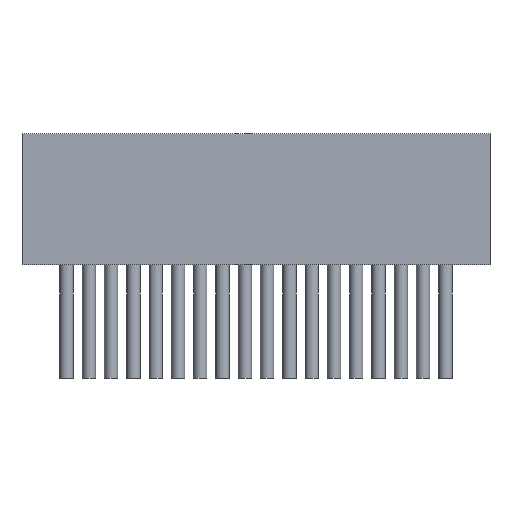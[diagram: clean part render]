
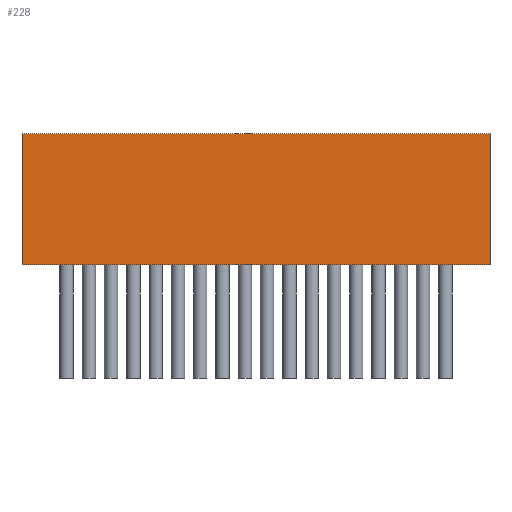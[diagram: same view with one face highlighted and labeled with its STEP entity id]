
A CAD part, front view. The second image highlights one B-rep face of the part: STEP entity #228.
In plain terms, the highlighted planar face has unit normal (0, -1, 0).
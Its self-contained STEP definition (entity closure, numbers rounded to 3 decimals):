
#59 = PLANE('',#60);
#60 = AXIS2_PLACEMENT_3D('',#61,#62,#63);
#61 = CARTESIAN_POINT('',(-2.,-0.4,0.));
#62 = DIRECTION('',(-1.,0.,0.));
#63 = DIRECTION('',(0.,1.,0.));
#87 = PLANE('',#88);
#88 = AXIS2_PLACEMENT_3D('',#89,#90,#91);
#89 = CARTESIAN_POINT('',(8.5,1.,5.893));
#90 = DIRECTION('',(-0.,-0.,-1.));
#91 = DIRECTION('',(-1.,0.,0.));
#115 = PLANE('',#116);
#116 = AXIS2_PLACEMENT_3D('',#117,#118,#119);
#117 = CARTESIAN_POINT('',(19.,2.4,0.));
#118 = DIRECTION('',(1.,0.,-0.));
#119 = DIRECTION('',(0.,-1.,0.));
#141 = PLANE('',#142);
#142 = AXIS2_PLACEMENT_3D('',#143,#144,#145);
#143 = CARTESIAN_POINT('',(8.5,1.,0.));
#144 = DIRECTION('',(-0.,-0.,-1.));
#145 = DIRECTION('',(-1.,0.,0.));
#158 = VERTEX_POINT('',#159);
#159 = CARTESIAN_POINT('',(19.,-0.4,5.893));
#180 = EDGE_CURVE('',#181,#158,#183,.T.);
#181 = VERTEX_POINT('',#182);
#182 = CARTESIAN_POINT('',(19.,-0.4,0.));
#183 = SURFACE_CURVE('',#184,(#188,#195),.PCURVE_S1.);
#184 = LINE('',#185,#186);
#185 = CARTESIAN_POINT('',(19.,-0.4,0.));
#186 = VECTOR('',#187,1.);
#187 = DIRECTION('',(0.,0.,1.));
#188 = PCURVE('',#115,#189);
#189 = DEFINITIONAL_REPRESENTATION('',(#190),#194);
#190 = LINE('',#191,#192);
#191 = CARTESIAN_POINT('',(2.8,0.));
#192 = VECTOR('',#193,1.);
#193 = DIRECTION('',(0.,-1.));
#194 = ( GEOMETRIC_REPRESENTATION_CONTEXT(2) 
PARAMETRIC_REPRESENTATION_CONTEXT() REPRESENTATION_CONTEXT('2D SPACE',''
  ) );
#195 = PCURVE('',#196,#201);
#196 = PLANE('',#197);
#197 = AXIS2_PLACEMENT_3D('',#198,#199,#200);
#198 = CARTESIAN_POINT('',(19.,-0.4,0.));
#199 = DIRECTION('',(0.,-1.,0.));
#200 = DIRECTION('',(-1.,0.,0.));
#201 = DEFINITIONAL_REPRESENTATION('',(#202),#206);
#202 = LINE('',#203,#204);
#203 = CARTESIAN_POINT('',(0.,-0.));
#204 = VECTOR('',#205,1.);
#205 = DIRECTION('',(0.,-1.));
#206 = ( GEOMETRIC_REPRESENTATION_CONTEXT(2) 
PARAMETRIC_REPRESENTATION_CONTEXT() REPRESENTATION_CONTEXT('2D SPACE',''
  ) );
#228 = ADVANCED_FACE('',(#229),#196,.T.);
#229 = FACE_BOUND('',#230,.T.);
#230 = EDGE_LOOP('',(#231,#232,#255,#278));
#231 = ORIENTED_EDGE('',*,*,#180,.T.);
#232 = ORIENTED_EDGE('',*,*,#233,.T.);
#233 = EDGE_CURVE('',#158,#234,#236,.T.);
#234 = VERTEX_POINT('',#235);
#235 = CARTESIAN_POINT('',(-2.,-0.4,5.893));
#236 = SURFACE_CURVE('',#237,(#241,#248),.PCURVE_S1.);
#237 = LINE('',#238,#239);
#238 = CARTESIAN_POINT('',(19.,-0.4,5.893));
#239 = VECTOR('',#240,1.);
#240 = DIRECTION('',(-1.,0.,0.));
#241 = PCURVE('',#196,#242);
#242 = DEFINITIONAL_REPRESENTATION('',(#243),#247);
#243 = LINE('',#244,#245);
#244 = CARTESIAN_POINT('',(0.,-5.893));
#245 = VECTOR('',#246,1.);
#246 = DIRECTION('',(1.,0.));
#247 = ( GEOMETRIC_REPRESENTATION_CONTEXT(2) 
PARAMETRIC_REPRESENTATION_CONTEXT() REPRESENTATION_CONTEXT('2D SPACE',''
  ) );
#248 = PCURVE('',#87,#249);
#249 = DEFINITIONAL_REPRESENTATION('',(#250),#254);
#250 = LINE('',#251,#252);
#251 = CARTESIAN_POINT('',(-10.5,-1.4));
#252 = VECTOR('',#253,1.);
#253 = DIRECTION('',(1.,0.));
#254 = ( GEOMETRIC_REPRESENTATION_CONTEXT(2) 
PARAMETRIC_REPRESENTATION_CONTEXT() REPRESENTATION_CONTEXT('2D SPACE',''
  ) );
#255 = ORIENTED_EDGE('',*,*,#256,.F.);
#256 = EDGE_CURVE('',#257,#234,#259,.T.);
#257 = VERTEX_POINT('',#258);
#258 = CARTESIAN_POINT('',(-2.,-0.4,0.));
#259 = SURFACE_CURVE('',#260,(#264,#271),.PCURVE_S1.);
#260 = LINE('',#261,#262);
#261 = CARTESIAN_POINT('',(-2.,-0.4,0.));
#262 = VECTOR('',#263,1.);
#263 = DIRECTION('',(0.,0.,1.));
#264 = PCURVE('',#196,#265);
#265 = DEFINITIONAL_REPRESENTATION('',(#266),#270);
#266 = LINE('',#267,#268);
#267 = CARTESIAN_POINT('',(21.,0.));
#268 = VECTOR('',#269,1.);
#269 = DIRECTION('',(0.,-1.));
#270 = ( GEOMETRIC_REPRESENTATION_CONTEXT(2) 
PARAMETRIC_REPRESENTATION_CONTEXT() REPRESENTATION_CONTEXT('2D SPACE',''
  ) );
#271 = PCURVE('',#59,#272);
#272 = DEFINITIONAL_REPRESENTATION('',(#273),#277);
#273 = LINE('',#274,#275);
#274 = CARTESIAN_POINT('',(0.,0.));
#275 = VECTOR('',#276,1.);
#276 = DIRECTION('',(0.,-1.));
#277 = ( GEOMETRIC_REPRESENTATION_CONTEXT(2) 
PARAMETRIC_REPRESENTATION_CONTEXT() REPRESENTATION_CONTEXT('2D SPACE',''
  ) );
#278 = ORIENTED_EDGE('',*,*,#279,.F.);
#279 = EDGE_CURVE('',#181,#257,#280,.T.);
#280 = SURFACE_CURVE('',#281,(#285,#292),.PCURVE_S1.);
#281 = LINE('',#282,#283);
#282 = CARTESIAN_POINT('',(19.,-0.4,0.));
#283 = VECTOR('',#284,1.);
#284 = DIRECTION('',(-1.,0.,0.));
#285 = PCURVE('',#196,#286);
#286 = DEFINITIONAL_REPRESENTATION('',(#287),#291);
#287 = LINE('',#288,#289);
#288 = CARTESIAN_POINT('',(0.,-0.));
#289 = VECTOR('',#290,1.);
#290 = DIRECTION('',(1.,0.));
#291 = ( GEOMETRIC_REPRESENTATION_CONTEXT(2) 
PARAMETRIC_REPRESENTATION_CONTEXT() REPRESENTATION_CONTEXT('2D SPACE',''
  ) );
#292 = PCURVE('',#141,#293);
#293 = DEFINITIONAL_REPRESENTATION('',(#294),#298);
#294 = LINE('',#295,#296);
#295 = CARTESIAN_POINT('',(-10.5,-1.4));
#296 = VECTOR('',#297,1.);
#297 = DIRECTION('',(1.,0.));
#298 = ( GEOMETRIC_REPRESENTATION_CONTEXT(2) 
PARAMETRIC_REPRESENTATION_CONTEXT() REPRESENTATION_CONTEXT('2D SPACE',''
  ) );
